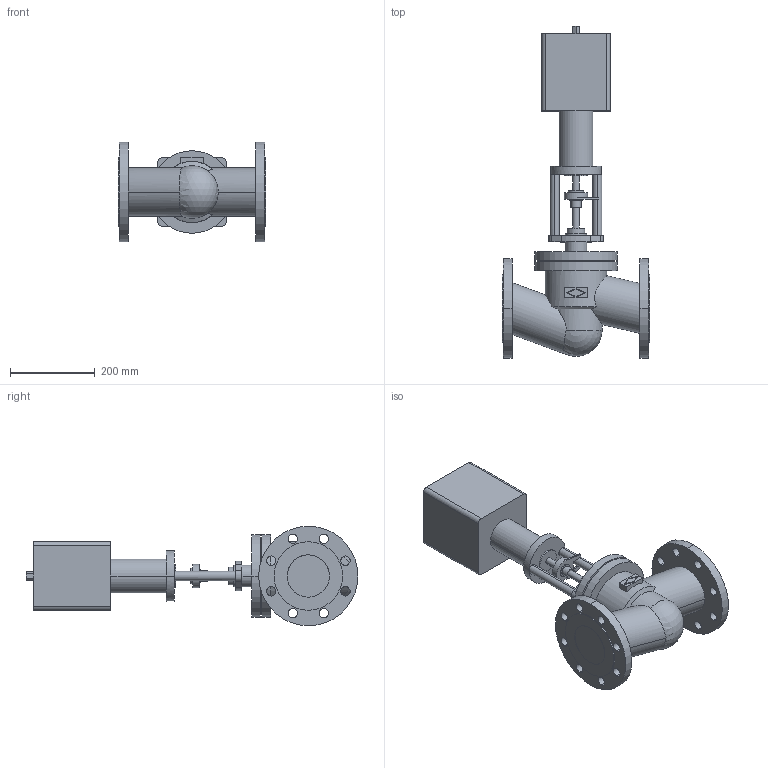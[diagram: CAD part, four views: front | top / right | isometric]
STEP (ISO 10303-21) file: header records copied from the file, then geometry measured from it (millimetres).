
FILE_DESCRIPTION( ( '' ), '1' );
FILE_NAME( 'F:/DE-SHS/TB/OR/04-Sonstiges/daten/files_3d/440-FR2.2/440-PN40-FR2_2/c000004544.stp', '2014-11-06T10:26:39', ( '' ), ( '' ), ' ', ' ', ' ' );
FILE_SCHEMA( ( 'CONFIG_CONTROL_DESIGN' ) );
Length unit declared in the file: millimetre
Products named in the file (2): 1; 2
Bounding box: 350 x 785.5 x 235 mm (x, y, z)
Volume: 13722990.7 mm3; surface area: 716174.4 mm2
Topology: 2 solids, 2 shells, 166 faces, 408 edges, 270 vertices
Faces by surface type: cylinder 94, plane 69, cone 2, sphere 1
Entity records: 5643 total; most frequent: CARTESIAN_POINT 1388, DIRECTION 929, ORIENTED_EDGE 812, EDGE_CURVE 406, AXIS2_PLACEMENT_3D 369, VERTEX_POINT 270, EDGE_LOOP 224, CIRCLE 197
